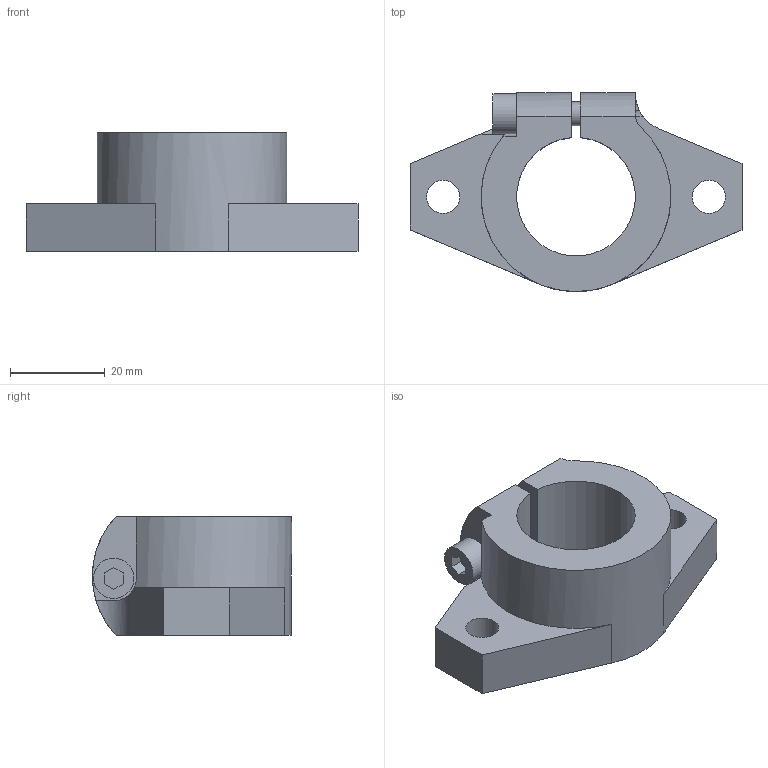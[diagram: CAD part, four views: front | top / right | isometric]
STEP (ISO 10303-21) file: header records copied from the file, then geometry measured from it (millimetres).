
FILE_DESCRIPTION(('STEP AP203'),'1');
FILE_NAME('//192.168.1.1/share/s-4 技術開発/s-4-14_個人別フォルダ/橋詰/09_CAD_DATA/3D/HP用/3Ｄモデル/SNF/SNF-25A.step','2021-09-16T23:48:43',(' '),(' '),'Spatial InterOp 3D',' ',' ');
FILE_SCHEMA(('CONFIG_CONTROL_DESIGN'));
Length unit declared in the file: millimetre
Products named in the file (2): 1; 2
Bounding box: 70 x 41.99 x 25 mm (x, y, z)
Volume: 26643.5 mm3; surface area: 10237.9 mm2
Topology: 2 solids, 2 shells, 43 faces, 114 edges, 76 vertices
Faces by surface type: plane 27, cylinder 15, cone 1
Full cylindrical faces by diameter (mm): 4.2 x1, 5 x2, 5.5 x1, 7 x2, 8.5 x1
Entity records: 1463 total; most frequent: CARTESIAN_POINT 323, DIRECTION 217, ORIENTED_EDGE 206, EDGE_CURVE 103, AXIS2_PLACEMENT_3D 77, VERTEX_POINT 73, LINE 63, VECTOR 63
